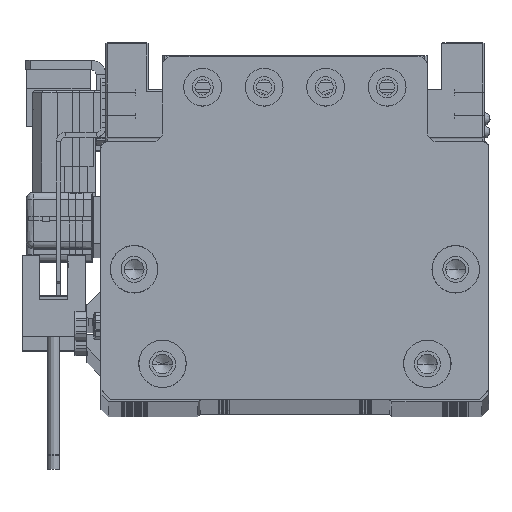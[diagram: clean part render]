
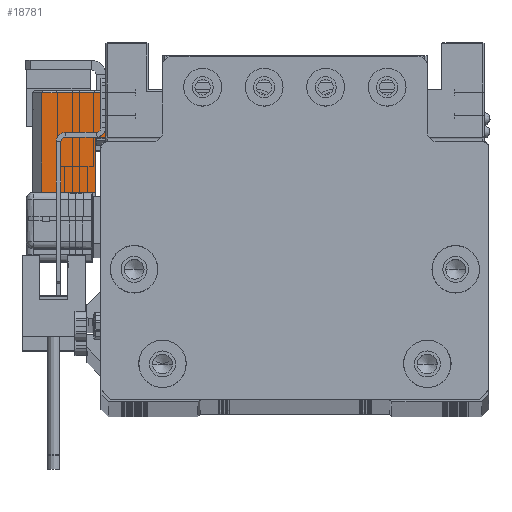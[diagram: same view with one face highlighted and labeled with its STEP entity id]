
A CAD part, top view. The second image highlights one B-rep face of the part: STEP entity #18781.
In plain terms, the highlighted planar face has unit normal (0, 0, 1) as drawn and (1, 0, 0) by its records, which use the part's own axes.
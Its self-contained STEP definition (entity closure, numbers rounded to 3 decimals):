
#4044 = VERTEX_POINT ( 'NONE', #57474 ) ;
#5514 = ORIENTED_EDGE ( 'NONE', *, *, #69597, .F. ) ;
#6708 = EDGE_CURVE ( 'NONE', #39055, #35427, #14470, .T. ) ;
#7522 = ORIENTED_EDGE ( 'NONE', *, *, #7962, .F. ) ;
#7962 = EDGE_CURVE ( 'NONE', #24746, #4044, #49706, .T. ) ;
#8001 = CARTESIAN_POINT ( 'NONE',  ( 17., -10.75, -15.5 ) ) ;
#8441 = LINE ( 'NONE', #32023, #28330 ) ;
#8909 = ORIENTED_EDGE ( 'NONE', *, *, #20217, .F. ) ;
#9508 = EDGE_CURVE ( 'NONE', #35427, #40234, #8441, .T. ) ;
#10761 = CARTESIAN_POINT ( 'NONE',  ( 17., 10.25, -2. ) ) ;
#10952 = LINE ( 'NONE', #68623, #33491 ) ;
#11854 = VECTOR ( 'NONE', #34556, 1000. ) ;
#11997 = VECTOR ( 'NONE', #14948, 1000. ) ;
#13077 = EDGE_LOOP ( 'NONE', ( #55335, #29393, #52680, #7522, #8909, #5514 ) ) ;
#14470 = LINE ( 'NONE', #45067, #55445 ) ;
#14948 = DIRECTION ( 'NONE',  ( 0., -1., 0. ) ) ;
#15112 = EDGE_CURVE ( 'NONE', #40234, #4044, #10952, .T. ) ;
#15679 = CARTESIAN_POINT ( 'NONE',  ( 17., 0.75, -13.3 ) ) ;
#18585 = VECTOR ( 'NONE', #72551, 1000. ) ;
#18781 = ADVANCED_FACE ( 'NONE', ( #54061 ), #65295, .T. ) ;
#19249 = DIRECTION ( 'NONE',  ( 0., 0., -1. ) ) ;
#19365 = CARTESIAN_POINT ( 'NONE',  ( 17., 10.25, -15.5 ) ) ;
#20217 = EDGE_CURVE ( 'NONE', #66374, #24746, #65905, .T. ) ;
#24746 = VERTEX_POINT ( 'NONE', #28934 ) ;
#28330 = VECTOR ( 'NONE', #65019, 1000. ) ;
#28583 = DIRECTION ( 'NONE',  ( 0., 1., 0. ) ) ;
#28934 = CARTESIAN_POINT ( 'NONE',  ( 17., -10.75, -13.3 ) ) ;
#29393 = ORIENTED_EDGE ( 'NONE', *, *, #9508, .T. ) ;
#32023 = CARTESIAN_POINT ( 'NONE',  ( 17., 10.25, -15.5 ) ) ;
#33491 = VECTOR ( 'NONE', #38658, 1000. ) ;
#34556 = DIRECTION ( 'NONE',  ( 0., 0., 1. ) ) ;
#35427 = VERTEX_POINT ( 'NONE', #19365 ) ;
#38658 = DIRECTION ( 'NONE',  ( 0., -1., 0. ) ) ;
#39055 = VERTEX_POINT ( 'NONE', #56069 ) ;
#39070 = CARTESIAN_POINT ( 'NONE',  ( 17., 0.75, -15.5 ) ) ;
#40234 = VERTEX_POINT ( 'NONE', #10761 ) ;
#45067 = CARTESIAN_POINT ( 'NONE',  ( 17., -10.75, -15.5 ) ) ;
#48678 = CARTESIAN_POINT ( 'NONE',  ( 17., -10.75, -13.3 ) ) ;
#49706 = LINE ( 'NONE', #56070, #18585 ) ;
#52680 = ORIENTED_EDGE ( 'NONE', *, *, #15112, .T. ) ;
#54061 = FACE_OUTER_BOUND ( 'NONE', #13077, .T. ) ;
#55335 = ORIENTED_EDGE ( 'NONE', *, *, #6708, .T. ) ;
#55445 = VECTOR ( 'NONE', #28583, 1000. ) ;
#56069 = CARTESIAN_POINT ( 'NONE',  ( 17., 0.75, -15.5 ) ) ;
#56070 = CARTESIAN_POINT ( 'NONE',  ( 17., -10.75, -15.5 ) ) ;
#57474 = CARTESIAN_POINT ( 'NONE',  ( 17., -10.75, -2. ) ) ;
#60050 = AXIS2_PLACEMENT_3D ( 'NONE', #8001, #69465, #19249 ) ;
#65019 = DIRECTION ( 'NONE',  ( 0., 0., 1. ) ) ;
#65295 = PLANE ( 'NONE',  #60050 ) ;
#65905 = LINE ( 'NONE', #48678, #11997 ) ;
#66374 = VERTEX_POINT ( 'NONE', #15679 ) ;
#67538 = LINE ( 'NONE', #39070, #11854 ) ;
#68623 = CARTESIAN_POINT ( 'NONE',  ( 17., -10.75, -2. ) ) ;
#69465 = DIRECTION ( 'NONE',  ( 1., 0., 0. ) ) ;
#69597 = EDGE_CURVE ( 'NONE', #39055, #66374, #67538, .T. ) ;
#72551 = DIRECTION ( 'NONE',  ( 0., 0., 1. ) ) ;
